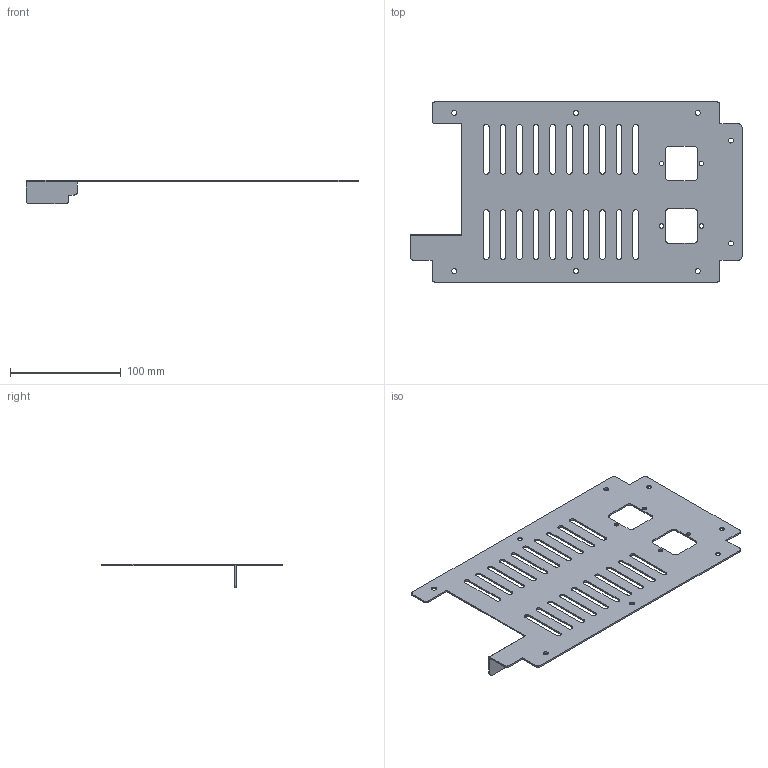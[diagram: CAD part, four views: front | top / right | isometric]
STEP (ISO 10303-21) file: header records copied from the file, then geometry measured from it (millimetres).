
FILE_DESCRIPTION (( 'STEP AP214' ), '1' );
FILE_NAME ('plcÏä-ºó¸Ç°å.STEP', '2023-05-04T04:25:07', ( 'ay' ), ( '' ), 'SwSTEP 2.0', 'SolidWorks 2020', '' );
FILE_SCHEMA (( 'AUTOMOTIVE_DESIGN' ));
Length unit declared in the file: millimetre
Products named in the file (1): plc箱-后盖板
Bounding box: 300 x 163 x 21.5 mm (x, y, z)
Volume: 55630.3 mm3; surface area: 79136 mm2
Topology: 1 solids, 1 shells, 153 faces, 452 edges, 301 vertices
Faces by surface type: cylinder 84, plane 69
Entity records: 5336 total; most frequent: DIRECTION 928, CARTESIAN_POINT 907, ORIENTED_EDGE 904, EDGE_CURVE 452, AXIS2_PLACEMENT_3D 322, VERTEX_POINT 301, VECTOR 284, LINE 284
